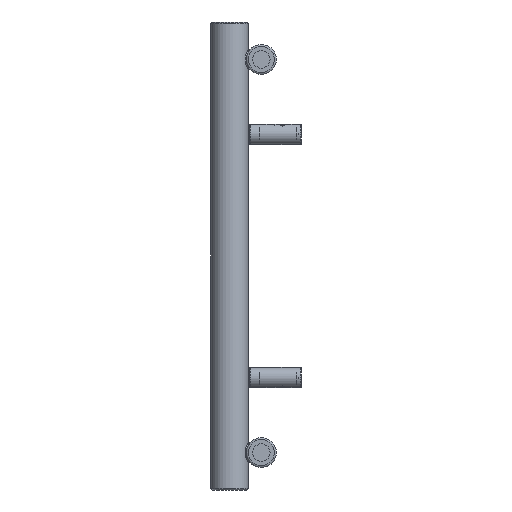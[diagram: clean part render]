
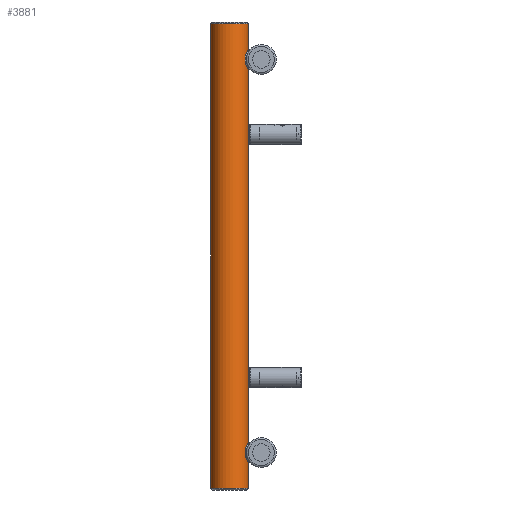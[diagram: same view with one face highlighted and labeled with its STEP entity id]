
A CAD part, left-side view. The second image highlights one B-rep face of the part: STEP entity #3881.
In plain terms, the highlighted cylindrical face has radius 20 mm (diameter 40 mm), a full revolution.
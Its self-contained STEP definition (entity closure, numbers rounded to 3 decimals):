
#296=FACE_BOUND('',#934,.T.);
#297=FACE_BOUND('',#935,.T.);
#349=LINE('',#10605,#442);
#442=VECTOR('',#4883,20.);
#535=CYLINDRICAL_SURFACE('',#4223,20.);
#608=FACE_OUTER_BOUND('',#933,.T.);
#933=EDGE_LOOP('',(#2858,#2859,#2860,#2861,#2862));
#934=EDGE_LOOP('',(#2863));
#935=EDGE_LOOP('',(#2864));
#1262=B_SPLINE_CURVE_WITH_KNOTS('',3,(#10580,#10581,#10582,#10583,#10584,
#10585,#10586,#10587,#10588,#10589,#10590,#10591,#10592,#10593,#10594,#10595,
#10596,#10597,#10598,#10599),.UNSPECIFIED.,.T.,.F.,(4,1,1,1,1,1,1,1,1,1,
1,1,1,1,1,1,1,4),(-5.132,-4.765,-4.399,
-4.154,-3.91,-3.666,-3.421,-3.177,
-2.933,-2.444,-2.199,-1.955,-1.711,
-1.466,-1.1,-0.733,-0.367,
0.),.UNSPECIFIED.);
#1263=B_SPLINE_CURVE_WITH_KNOTS('',3,(#10609,#10610,#10611,#10612,#10613,
#10614,#10615,#10616,#10617,#10618,#10619,#10620,#10621,#10622,#10623,#10624,
#10625,#10626),.UNSPECIFIED.,.T.,.F.,(4,1,1,1,1,1,1,1,1,1,1,1,1,1,1,4),
(-5.132,-4.765,-4.399,-3.91,
-3.666,-3.421,-3.177,-2.933,
-2.444,-2.199,-1.955,-1.466,-1.1,
-0.733,-0.367,0.),.UNSPECIFIED.);
#1379=CIRCLE('',#4224,20.);
#1380=CIRCLE('',#4225,20.);
#1381=CIRCLE('',#4226,20.);
#1763=VERTEX_POINT('',#10578);
#1764=VERTEX_POINT('',#10601);
#1765=VERTEX_POINT('',#10602);
#1766=VERTEX_POINT('',#10604);
#1767=VERTEX_POINT('',#10608);
#2193=EDGE_CURVE('',#1763,#1763,#1262,.T.);
#2194=EDGE_CURVE('',#1764,#1765,#1379,.T.);
#2195=EDGE_CURVE('',#1764,#1766,#349,.T.);
#2196=EDGE_CURVE('',#1766,#1766,#1380,.T.);
#2197=EDGE_CURVE('',#1765,#1764,#1381,.T.);
#2198=EDGE_CURVE('',#1767,#1767,#1263,.T.);
#2858=ORIENTED_EDGE('',*,*,#2194,.F.);
#2859=ORIENTED_EDGE('',*,*,#2195,.T.);
#2860=ORIENTED_EDGE('',*,*,#2196,.F.);
#2861=ORIENTED_EDGE('',*,*,#2195,.F.);
#2862=ORIENTED_EDGE('',*,*,#2197,.F.);
#2863=ORIENTED_EDGE('',*,*,#2198,.F.);
#2864=ORIENTED_EDGE('',*,*,#2193,.F.);
#3881=ADVANCED_FACE('',(#608,#296,#297),#535,.T.);
#4223=AXIS2_PLACEMENT_3D('',#10600,#4879,#4880);
#4224=AXIS2_PLACEMENT_3D('',#10603,#4881,#4882);
#4225=AXIS2_PLACEMENT_3D('',#10606,#4884,#4885);
#4226=AXIS2_PLACEMENT_3D('',#10607,#4886,#4887);
#4879=DIRECTION('center_axis',(0.,0.,1.));
#4880=DIRECTION('ref_axis',(-1.,0.,0.));
#4881=DIRECTION('center_axis',(0.,0.,1.));
#4882=DIRECTION('ref_axis',(-1.,0.,0.));
#4883=DIRECTION('',(0.,0.,-1.));
#4884=DIRECTION('center_axis',(0.,0.,-1.));
#4885=DIRECTION('ref_axis',(-1.,0.,0.));
#4886=DIRECTION('center_axis',(0.,0.,1.));
#4887=DIRECTION('ref_axis',(-1.,0.,0.));
#10578=CARTESIAN_POINT('',(-1155.,-20.,50.1));
#10580=CARTESIAN_POINT('Ctrl Pts',(-1155.,-20.,50.1));
#10581=CARTESIAN_POINT('Ctrl Pts',(-1156.611,-20.,50.1));
#10582=CARTESIAN_POINT('Ctrl Pts',(-1159.838,-19.598,
49.588));
#10583=CARTESIAN_POINT('Ctrl Pts',(-1163.412,-18.224,47.308));
#10584=CARTESIAN_POINT('Ctrl Pts',(-1165.38,-17.113,
44.116));
#10585=CARTESIAN_POINT('Ctrl Pts',(-1166.115,-16.627,40.853));
#10586=CARTESIAN_POINT('Ctrl Pts',(-1165.87,-16.794,
37.475));
#10587=CARTESIAN_POINT('Ctrl Pts',(-1164.649,-17.556,
34.43));
#10588=CARTESIAN_POINT('Ctrl Pts',(-1162.535,-18.59,
32.082));
#10589=CARTESIAN_POINT('Ctrl Pts',(-1158.836,-19.821,
30.088));
#10590=CARTESIAN_POINT('Ctrl Pts',(-1154.419,-20.203,
29.641));
#10591=CARTESIAN_POINT('Ctrl Pts',(-1150.24,-19.504,
30.58));
#10592=CARTESIAN_POINT('Ctrl Pts',(-1147.467,-18.593,32.084));
#10593=CARTESIAN_POINT('Ctrl Pts',(-1145.351,-17.554,
34.428));
#10594=CARTESIAN_POINT('Ctrl Pts',(-1143.928,-16.664,
37.98));
#10595=CARTESIAN_POINT('Ctrl Pts',(-1143.923,-16.659,
42.598));
#10596=CARTESIAN_POINT('Ctrl Pts',(-1146.135,-18.048,
47.029));
#10597=CARTESIAN_POINT('Ctrl Pts',(-1150.165,-19.6,
49.585));
#10598=CARTESIAN_POINT('Ctrl Pts',(-1153.389,-20.,50.1));
#10599=CARTESIAN_POINT('Ctrl Pts',(-1155.,-20.,50.1));
#10600=CARTESIAN_POINT('Origin',(-1155.,0.,0.));
#10601=CARTESIAN_POINT('',(-1135.,0.,498.));
#10602=CARTESIAN_POINT('',(-1175.,0.,498.));
#10603=CARTESIAN_POINT('Origin',(-1155.,0.,498.));
#10604=CARTESIAN_POINT('',(-1135.,0.,2.));
#10605=CARTESIAN_POINT('',(-1135.,0.,0.));
#10606=CARTESIAN_POINT('Origin',(-1155.,0.,2.));
#10607=CARTESIAN_POINT('Origin',(-1155.,0.,498.));
#10608=CARTESIAN_POINT('',(-1155.,-20.,470.1));
#10609=CARTESIAN_POINT('Ctrl Pts',(-1155.,-20.,470.1));
#10610=CARTESIAN_POINT('Ctrl Pts',(-1156.611,-20.,470.1));
#10611=CARTESIAN_POINT('Ctrl Pts',(-1159.83,-19.611,
469.58));
#10612=CARTESIAN_POINT('Ctrl Pts',(-1164.319,-17.859,
466.751));
#10613=CARTESIAN_POINT('Ctrl Pts',(-1166.21,-16.549,
461.99));
#10614=CARTESIAN_POINT('Ctrl Pts',(-1165.866,-16.8,
457.471));
#10615=CARTESIAN_POINT('Ctrl Pts',(-1164.651,-17.553,454.431));
#10616=CARTESIAN_POINT('Ctrl Pts',(-1162.534,-18.59,
452.081));
#10617=CARTESIAN_POINT('Ctrl Pts',(-1158.838,-19.82,
450.089));
#10618=CARTESIAN_POINT('Ctrl Pts',(-1154.416,-20.202,
449.636));
#10619=CARTESIAN_POINT('Ctrl Pts',(-1150.244,-19.505,
450.585));
#10620=CARTESIAN_POINT('Ctrl Pts',(-1146.526,-18.282,
452.562));
#10621=CARTESIAN_POINT('Ctrl Pts',(-1143.913,-16.657,
456.802));
#10622=CARTESIAN_POINT('Ctrl Pts',(-1143.931,-16.662,462.609));
#10623=CARTESIAN_POINT('Ctrl Pts',(-1146.132,-18.046,
467.026));
#10624=CARTESIAN_POINT('Ctrl Pts',(-1150.167,-19.601,
469.588));
#10625=CARTESIAN_POINT('Ctrl Pts',(-1153.389,-20.,470.1));
#10626=CARTESIAN_POINT('Ctrl Pts',(-1155.,-20.,470.1));
